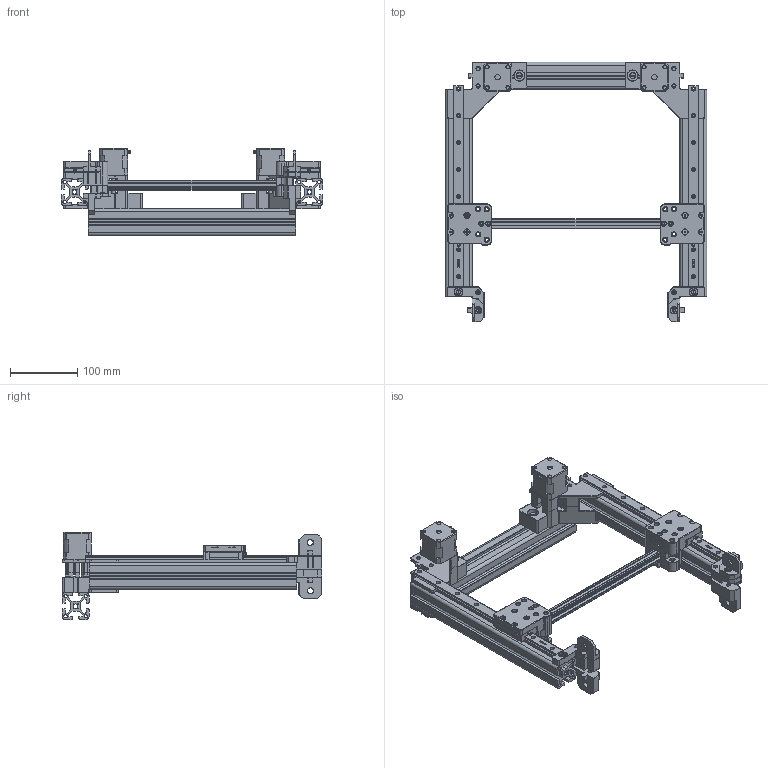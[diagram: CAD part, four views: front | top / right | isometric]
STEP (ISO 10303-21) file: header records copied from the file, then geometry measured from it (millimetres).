
FILE_DESCRIPTION(/* description */ ('STEP AP242','CAx-IF Rec.Pracs.---Representation and Presentation of Product Manufacturing Information (PMI)---4.0---2014-10-13','CAx-IF Rec.Pracs.---3D Tessellated Geometry---0.4---2014-09-14','2;1'),/* implementation_level */ '2;1');
FILE_NAME(/* name */ '682929389a237b661d8036cb',/* time_stamp */ '2025-05-18T00:26:35Z',/* author */ (''),/* organization */ (''),/* preprocessor_version */ 'ST-DEVELOPER v20',/* originating_system */ 'ONSHAPE BY PTC INC, 1.198',/* authorisation */ ' ');
FILE_SCHEMA (('AP242_MANAGED_MODEL_BASED_3D_ENGINEERING_MIM_LF { 1 0 10303 442 1 1 4 }'));
Products named in the file (30): Motion; AB left top; motor-40mm; AB left bottom; y-carrier-top-right; y-carrier-top-left; Y; X 1515; AB right top; y-carrier-bottom-right; AB right bottom; End Idlers <1>; left-idler-top; left-idler-bottom; left-idler-mid; right-idler-top; y-carrier-bottom-left; X; MGN 15 <1>; ????^1737369433673; rail; MGN 15 <2>
Assembly tree (39 placements, depth 3):
  Motion
    AB left top
    motor-40mm  x2
    AB left bottom
    y-carrier-top-right
    y-carrier-top-left
    Y  x2
    X 1515
    AB right top
    y-carrier-bottom-right
    AB right bottom
    End Idlers <1>
      left-idler-top
      left-idler-bottom
      left-idler-mid
      right-idler-top
      left-idler-mid
      left-idler-bottom
    y-carrier-bottom-left
    X
    MGN 15 <1>
      ????^1737369433673
      ????^1737369433673
      ????^1737369433673
      rail
      ????^1737369433673
      ????^1737369433673
      ????^1737369433673
      ????^1737369433673
    MGN 15 <2>
      ????^1737369433673
      ????^1737369433673
      ????^1737369433673
      ????^1737369433673
      ????^1737369433673
      ????^1737369433673
      rail
      ????^1737369433673
Bounding box: 390 x 387 x 130 mm (x, y, z)
Volume: 1541733.4 mm3; surface area: 676383 mm2
Topology: 36 solids, 36 shells, 3523 faces, 9028 edges, 5657 vertices
Faces by surface type: plane 2247, cylinder 773, cone 341, bspline 84, sphere 59, torus 19
Full cylindrical faces by diameter (mm): 1.5 x8, 2.459 x8, 2.9 x10, 3 x20, 3.2 x8, 3.3 x1, 3.4 x18, 3.5 x16, 4 x16, 4.2 x6, 4.4 x2, 4.5 x4, 4.8 x2, 5 x14, 5.05 x18, 5.4 x10, 6 x26, 6.4 x2, 6.5 x18, 7 x2, 8 x14, 8.4 x14, 10 x2, 11.4 x2, 12 x2, 16 x2, 22 x2, 22.4 x2, 33 x2
Entity records: 88629 total; most frequent: CARTESIAN_POINT 16183, DIRECTION 14350, ORIENTED_EDGE 14068, EDGE_CURVE 7034, LINE 5296, VECTOR 5296, VERTEX_POINT 4650, AXIS2_PLACEMENT_3D 4527
